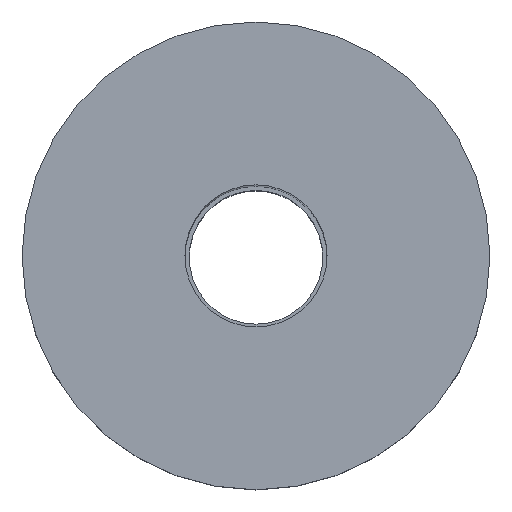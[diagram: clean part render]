
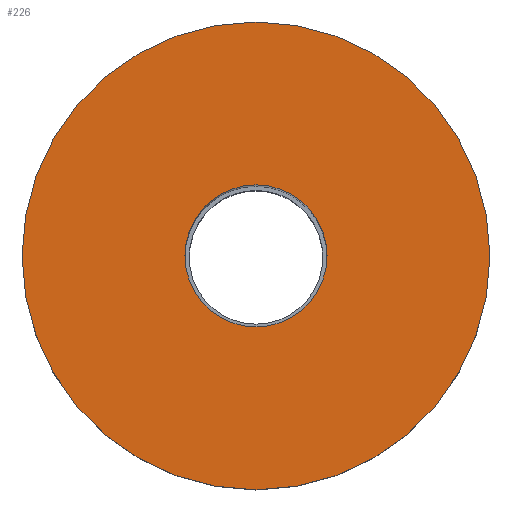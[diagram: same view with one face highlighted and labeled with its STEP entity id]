
A CAD part, top view. The second image highlights one B-rep face of the part: STEP entity #226.
In plain terms, the highlighted planar face has unit normal (0, 0, 1).
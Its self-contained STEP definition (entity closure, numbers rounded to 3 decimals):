
#7 = EDGE_CURVE ( 'NONE', #277, #183, #135, .T. ) ;
#13 = FACE_OUTER_BOUND ( 'NONE', #238, .T. ) ;
#24 = AXIS2_PLACEMENT_3D ( 'NONE', #333, #432, #243 ) ;
#30 = CIRCLE ( 'NONE', #24, 14. ) ;
#43 = CARTESIAN_POINT ( 'NONE',  ( -4.25, 0., 0. ) ) ;
#46 = ORIENTED_EDGE ( 'NONE', *, *, #7, .F. ) ;
#53 = ORIENTED_EDGE ( 'NONE', *, *, #396, .T. ) ;
#61 = VERTEX_POINT ( 'NONE', #163 ) ;
#65 = DIRECTION ( 'NONE',  ( 1., 0., 0. ) ) ;
#67 = AXIS2_PLACEMENT_3D ( 'NONE', #239, #452, #479 ) ;
#101 = DIRECTION ( 'NONE',  ( 0., 0., 1. ) ) ;
#102 = VERTEX_POINT ( 'NONE', #290 ) ;
#104 = FACE_BOUND ( 'NONE', #481, .T. ) ;
#134 = AXIS2_PLACEMENT_3D ( 'NONE', #424, #408, #398 ) ;
#135 = CIRCLE ( 'NONE', #377, 4.25 ) ;
#163 = CARTESIAN_POINT ( 'NONE',  ( 14., 0., 0. ) ) ;
#164 = CIRCLE ( 'NONE', #134, 4.25 ) ;
#183 = VERTEX_POINT ( 'NONE', #311 ) ;
#224 = DIRECTION ( 'NONE',  ( 0., 0., 1. ) ) ;
#226 = ADVANCED_FACE ( 'NONE', ( #104, #13 ), #246, .F. ) ;
#238 = EDGE_LOOP ( 'NONE', ( #491, #53 ) ) ;
#239 = CARTESIAN_POINT ( 'NONE',  ( 0., 4.25, 0. ) ) ;
#243 = DIRECTION ( 'NONE',  ( 1., 0., 0. ) ) ;
#246 = PLANE ( 'NONE',  #67 ) ;
#253 = EDGE_CURVE ( 'NONE', #183, #277, #164, .T. ) ;
#258 = ORIENTED_EDGE ( 'NONE', *, *, #253, .F. ) ;
#277 = VERTEX_POINT ( 'NONE', #43 ) ;
#290 = CARTESIAN_POINT ( 'NONE',  ( -14., 0., 0. ) ) ;
#308 = CIRCLE ( 'NONE', #416, 14. ) ;
#311 = CARTESIAN_POINT ( 'NONE',  ( 4.25, 0., 0. ) ) ;
#325 = EDGE_CURVE ( 'NONE', #61, #102, #30, .T. ) ;
#330 = DIRECTION ( 'NONE',  ( 1., 0., 0. ) ) ;
#333 = CARTESIAN_POINT ( 'NONE',  ( 0., 0., 0. ) ) ;
#368 = CARTESIAN_POINT ( 'NONE',  ( 0., 0., 0. ) ) ;
#377 = AXIS2_PLACEMENT_3D ( 'NONE', #466, #224, #65 ) ;
#396 = EDGE_CURVE ( 'NONE', #102, #61, #308, .T. ) ;
#398 = DIRECTION ( 'NONE',  ( 1., 0., 0. ) ) ;
#408 = DIRECTION ( 'NONE',  ( 0., 0., 1. ) ) ;
#416 = AXIS2_PLACEMENT_3D ( 'NONE', #368, #101, #330 ) ;
#424 = CARTESIAN_POINT ( 'NONE',  ( 0., 0., 0. ) ) ;
#432 = DIRECTION ( 'NONE',  ( 0., 0., 1. ) ) ;
#452 = DIRECTION ( 'NONE',  ( 0., 0., -1. ) ) ;
#466 = CARTESIAN_POINT ( 'NONE',  ( 0., 0., 0. ) ) ;
#479 = DIRECTION ( 'NONE',  ( -1., 0., 0. ) ) ;
#481 = EDGE_LOOP ( 'NONE', ( #258, #46 ) ) ;
#491 = ORIENTED_EDGE ( 'NONE', *, *, #325, .T. ) ;
